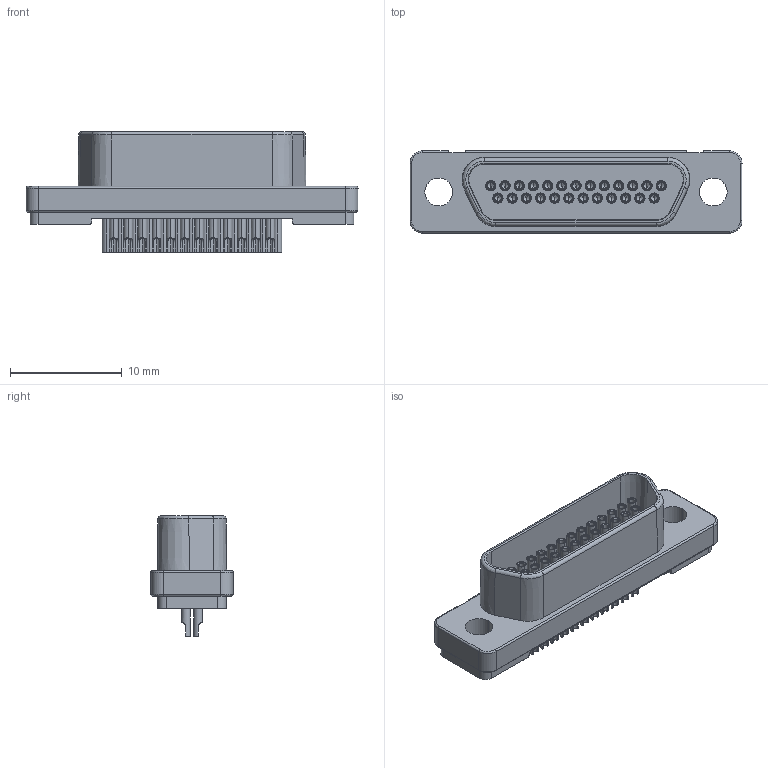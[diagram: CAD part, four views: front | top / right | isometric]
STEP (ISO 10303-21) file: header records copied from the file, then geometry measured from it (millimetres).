
FILE_DESCRIPTION (( 'STEP AP203' ), '1' );
FILE_NAME ('380-025-203L001.STEP', '2025-01-17T20:35:29', ( '' ), ( '' ), 'SwSTEP 2.0', 'SolidWorks 2020', '' );
FILE_SCHEMA (( 'CONFIG_CONTROL_DESIGN' ));
Length unit declared in the file: millimetre
Products named in the file (1): 380-025-203L001
Bounding box: 29.7 x 7.35 x 10.8 mm (x, y, z)
Volume: 770.6 mm3; surface area: 2075.7 mm2
Topology: 51 solids, 51 shells, 968 faces, 2282 edges, 1394 vertices
Faces by surface type: cylinder 509, plane 237, cone 210, bspline 12
Entity records: 28493 total; most frequent: CARTESIAN_POINT 5965, DIRECTION 5021, ORIENTED_EDGE 4364, EDGE_CURVE 2182, AXIS2_PLACEMENT_3D 2037, VERTEX_POINT 1394, EDGE_LOOP 1150, CIRCLE 1080
